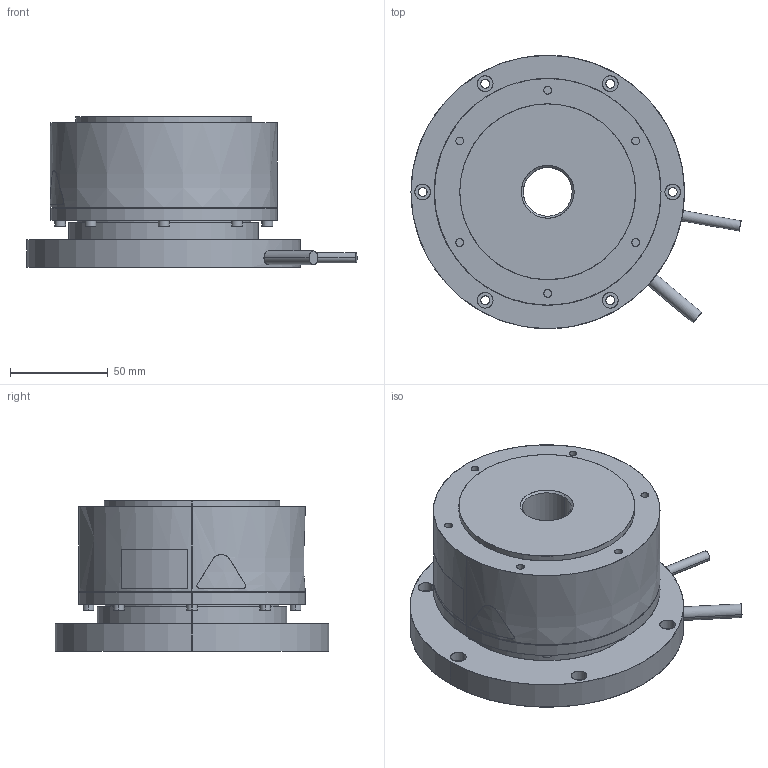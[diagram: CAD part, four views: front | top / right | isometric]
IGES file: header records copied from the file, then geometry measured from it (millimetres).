
Start section: SolidWorks IGES file using analytic representation for surfaces
Bounding box: 168.94 x 140 x 77 mm (x, y, z)
Surface area: 76922.7 mm2 (no closed solid volume)
Topology: 0 solids, 0 shells, 125 faces, 3440 edges, 3440 vertices
Faces by surface type: revolution 82, bspline 43
